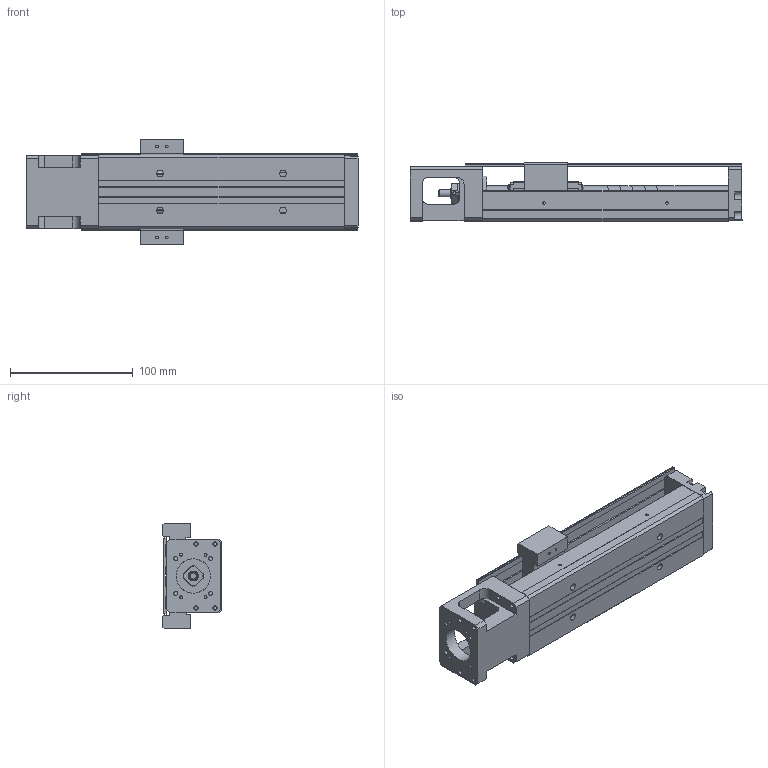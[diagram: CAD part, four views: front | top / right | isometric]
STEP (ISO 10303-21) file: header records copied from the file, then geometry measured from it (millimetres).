
FILE_DESCRIPTION(/* description */ (''),/* implementation_level */ '2;1');
FILE_NAME(/* name */ '33S-200C.stp',/* time_stamp */ '2016-12-20T13:35:42+08:00',/* author */ (''),/* organization */ (''),/* preprocessor_version */ 'ST-DEVELOPER v11',/* originating_system */ 'SIEMENS UGS NX 6.0',/* authorisation */ '');
FILE_SCHEMA (('AUTOMOTIVE_DESIGN { 1 0 10303 214 1 1 1 1 }'));
Length unit declared in the file: millimetre
Products named in the file (1): model4
Bounding box: 270 x 47.95 x 86 mm (x, y, z)
Volume: 404515.6 mm3; surface area: 139030 mm2
Topology: 7 solids, 12 shells, 668 faces, 1713 edges, 1130 vertices
Faces by surface type: plane 403, cylinder 180, bspline 31, cone 22, extrusion 21, torus 9, revolution 2
Full cylindrical faces by diameter (mm): 1.6 x1, 1.65 x4, 2.15 x6, 2.42 x4, 2.45 x8, 2.5 x12, 3.2 x4, 3.3 x4, 3.4 x4, 3.5 x10, 3.969 x1, 4 x4, 4.001 x1, 4.135 x2, 4.2 x2, 5.5 x4, 6 x5, 7.6 x1, 8 x5, 9.5 x4, 10.72 x3, 11.8 x2, 12 x6, 12.8 x1, 13 x2, 14 x1, 17.38 x3, 21.5 x1, 22 x2, 28 x1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
Entity records: 35325 total; most frequent: CARTESIAN_POINT 16294, DIRECTION 3046, ORIENTED_EDGE 2998, EDGE_CURVE 1499, VERTEX_POINT 1057, AXIS2_PLACEMENT_3D 1047, VECTOR 950, EDGE_LOOP 932
